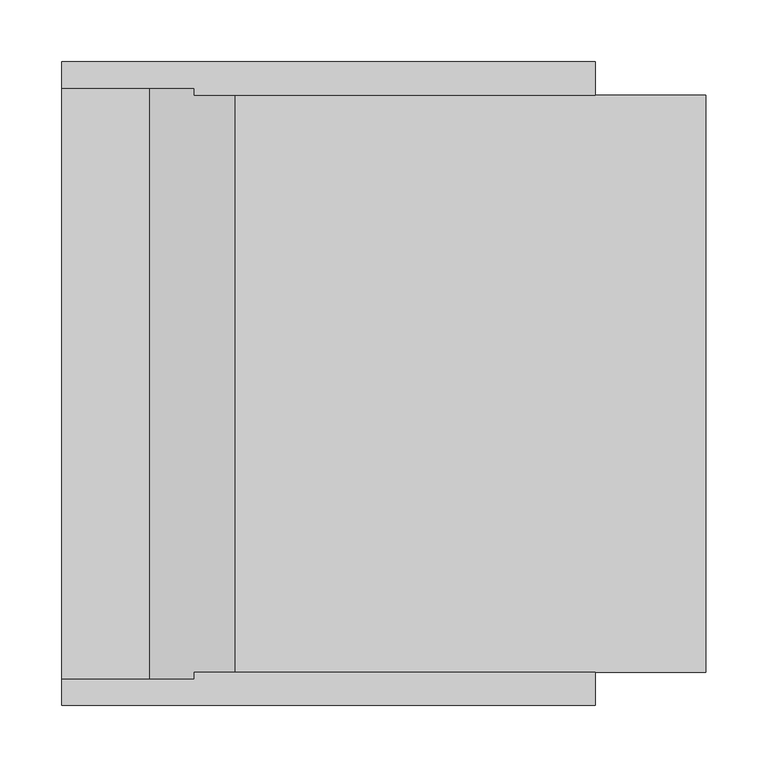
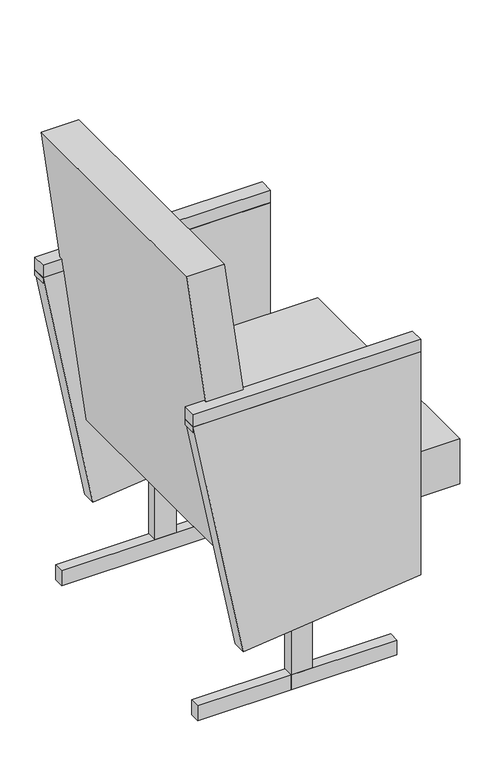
"""IFC4 building model written with IfcOpenShell, lengths in millimetres: proxy geometry, Кресло_для_Зрительного_Зала_откидное : Кресло для зрительного зала."""

from ifc_helpers import new_model, si_unit, frame, origin, origin_with_axes, place, context, project, spatial, polyline, outline, extrude, source, transform, mapped, element, save


def mechanical_equipment_249a26df(model_context):
    return source(origin(), model_context, "Body", "SweptSolid", [
        extrude(outline(polyline([(319.5986498, -233.2580138), (-63.172786, -233.2580138), (-63.172786, 233.2580138), (319.5986498, 233.2580138), (319.5986498, -233.2580138)])), frame((0.0, 0.0, 300.9030905), z_axis=(0.0, 0.0, 1.0), x_axis=(1.0, 0.0, 0.0)), (0.0, 0.0, 1.0), 90.0),
        extrude(outline(polyline([(200.0, 233.2580138), (200.0, 213.2580138), (-176.6956326, 213.2580138), (-176.6956326, 233.2580138), (200.0, 233.2580138)])), origin_with_axes(), (0.0, 0.0, 1.0), 30.0),
        extrude(outline(polyline([(200.0, -213.2580138), (200.0, -233.2580138), (-176.6956326, -233.2580138), (-176.6956326, -213.2580138), (200.0, -213.2580138)])), origin_with_axes(), (0.0, 0.0, 1.0), 30.0),
        extrude(outline(polyline([(0.0, 233.2580138), (40.0, 233.2580138), (40.0, 213.2580138), (0.0, 213.2580138), (0.0, 233.2580138)])), origin_with_axes(), (0.0, 0.0, 1.0), 332.1550629),
        extrude(outline(polyline([(40.0, -233.2580138), (0.0, -233.2580138), (0.0, -213.2580138), (40.0, -213.2580138), (40.0, -233.2580138)])), origin_with_axes(), (0.0, 0.0, 1.0), 332.1550629),
        extrude(outline(polyline([(612.7099409, 230.0611605), (612.7099409, -200.4013502), (129.9453726, -105.9754095), (166.4964295, 230.0611605), (612.7099409, 230.0611605)])), frame((0.0, 233.2580138, 0.0), z_axis=(0.0, 1.0, 0.0), x_axis=(0.0, 0.0, 1.0)), (0.0, 0.0, 1.0), 26.7419862),
        extrude(outline(polyline([(300.9030905, -119.2087085), (300.9030905, -48.2708053), (900.9030905, -129.463447), (900.9030905, -200.4013502), (300.9030905, -119.2087085)])), frame((0.0, -238.5190958, 0.0), z_axis=(0.0, 1.0, 0.0), x_axis=(0.0, 0.0, 1.0)), (0.0, 0.0, 1.0), 477.0381916),
        extrude(outline(polyline([(-200.4013502, 260.0), (230.0611605, 260.0), (230.0611605, 233.2580138), (-200.4013502, 233.2580138), (-200.4013502, 260.0)])), frame((0.0, 0.0, 601.7554221), z_axis=(0.0, 0.0, 1.0), x_axis=(1.0, 0.0, 0.0)), (0.0, 0.0, 1.0), 36.0120134),
        extrude(outline(polyline([(612.7099409, 230.0611605), (612.7099409, -200.4013502), (129.9453726, -105.9754095), (166.4964295, 230.0611605), (612.7099409, 230.0611605)])), frame((0.0, -260.0, 0.0), z_axis=(0.0, 1.0, 0.0), x_axis=(0.0, 0.0, 1.0)), (0.0, 0.0, 1.0), 26.7419862),
        extrude(outline(polyline([(-200.4013502, -260.0), (-200.4013502, -233.2580138), (230.0611605, -233.2580138), (230.0611605, -260.0), (-200.4013502, -260.0)])), frame((0.0, 0.0, 601.7554221), z_axis=(0.0, 0.0, 1.0), x_axis=(1.0, 0.0, 0.0)), (0.0, 0.0, 1.0), 36.0120134),
    ])


if __name__ == "__main__":
    model = new_model("IFC4")
    model_context = context("Model", 3, world=origin())
    ifc_project = project(units=[si_unit("LENGTHUNIT", "METRE", prefix="MILLI")], contexts=[model_context])
    site = spatial("IfcSite", under=ifc_project)
    building = spatial("IfcBuilding", under=site)
    placement = place(None, origin())
    mechanical_equipment_shape = mechanical_equipment_249a26df(model_context)
    element("IfcBuildingElementProxy", 1, Name="Кресло_для_Зрительного_Зала_откидное : Кресло для зрительного зала", ObjectType="Кресло_для_Зрительного_Зала_откидное : Кресло для зрительного зала", at=placement, inside=building, context=model_context, shape_type="MappedRepresentation", body=[
        mapped(mechanical_equipment_shape, transform((0.0, 0.0, 0.0), x_axis=(1.0, 0.0, 0.0), y_axis=(0.0, 1.0, 0.0), z_axis=(0.0, 0.0, 1.0))),
    ])
    save(model, "model.ifc")
